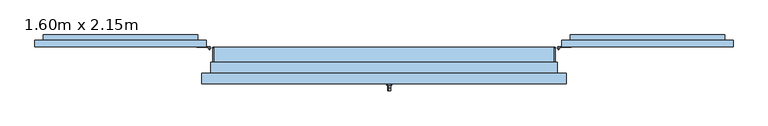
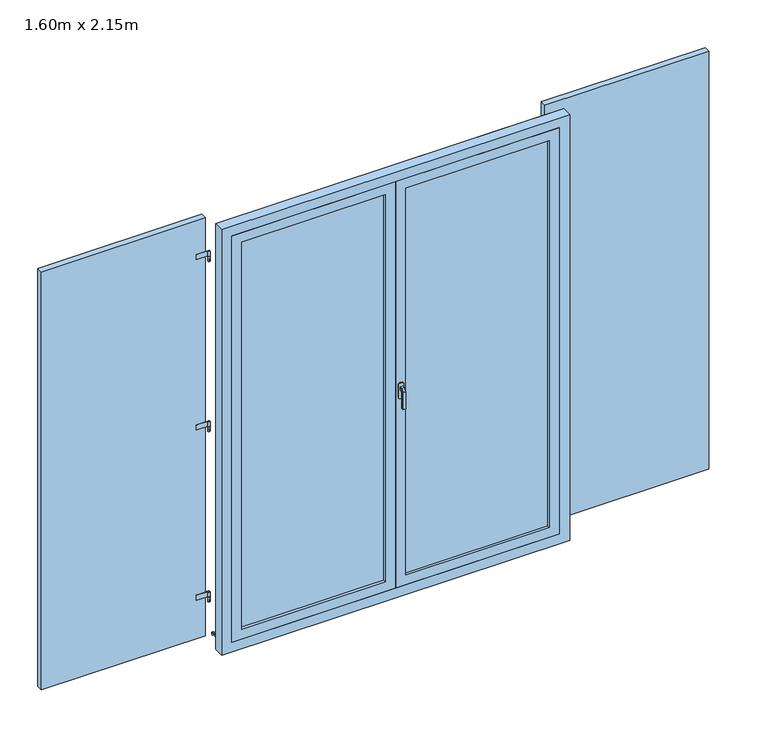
"""IFC4 building model written with IfcOpenShell, lengths in millimetres: window geometry, PF 2 Vantaux droits - Volets et petits bois : 1.60m x 2.15m."""

from ifc_helpers import new_model, si_unit, point, frame, frame_2d, origin, place, context, project, spatial, polyline, circle_curve, trimmed, segment, composite_curve, outline, extrude, faceted_brep, source, transform, mapped, element, save
from ifc_brep_helpers import plane_surface, cylinder_surface, advanced_brep


def window_1_60m_x_2_15m_e7e592b5(model_context):
    return source(origin(), model_context, "Body", "SolidModel", [
        extrude(outline(polyline([(-1630.0, 93.0), (-1630.0, 123.0), (-830.0, 123.0), (-830.0, 93.0), (-1630.0, 93.0)])), frame((0.0, 0.0, 25.0), z_axis=(0.0, 0.0, 1.0), x_axis=(1.0, 0.0, 0.0)), (0.0, 0.0, 1.0), 2160.0),
        advanced_brep(
        [(-810.0, 88.0, 225.0), (-820.0, 88.0, 225.0), (-810.0, 88.0, 200.0), (-820.0, 88.0, 200.0), (-817.0, 83.4174243, 205.0), (-817.0, 83.4174243, 215.0), (-813.0, 83.4174243, 215.0), (-813.0, 83.4174243, 205.0), (-813.0, 80.0, 215.0), (-817.0, 80.0, 215.0), (-817.0, 80.0, 205.0), (-813.0, 80.0, 205.0)],
        [
            (0, 1, circle_curve(frame((-815.0, 88.0, 225.0), z_axis=(0.0, 0.0, 1.0), x_axis=(-1.0, 0.0, 0.0)), 5.0)),
            (1, 0, circle_curve(frame((-815.0, 88.0, 225.0), z_axis=(0.0, 0.0, 1.0), x_axis=(-1.0, 0.0, 0.0)), 5.0)),
            (2, 3, circle_curve(frame((-815.0, 88.0, 200.0), z_axis=(0.0, 0.0, -1.0), x_axis=(-1.0, 0.0, 0.0)), 5.0)),
            (3, 2, circle_curve(frame((-815.0, 88.0, 200.0), z_axis=(0.0, 0.0, -1.0), x_axis=(-1.0, 0.0, 0.0)), 5.0)),
            (1, 3),
            (2, 0),
            (4, 5),
            (5, 6, circle_curve(frame((-815.0, 88.0, 215.0), z_axis=(0.0, 0.0, 1.0), x_axis=(-1.0, 0.0, 0.0)), 5.0)),
            (6, 7),
            (7, 4, circle_curve(frame((-815.0, 88.0, 205.0), z_axis=(0.0, 0.0, -1.0), x_axis=(-1.0, 0.0, 0.0)), 5.0)),
            (8, 6),
            (5, 9),
            (9, 8),
            (10, 4),
            (7, 11),
            (11, 10),
            (10, 9),
            (8, 11),
        ],
        [
            plane_surface(frame((-820.0, 88.0, 225.0), z_axis=(0.0, 0.0, 1.0), x_axis=(0.0, 1.0, 0.0))),
            plane_surface(frame((-820.0, 88.0, 200.0), z_axis=(0.0, 0.0, -1.0), x_axis=(0.0, -1.0, 0.0))),
            cylinder_surface(frame((-815.0, 88.0, 200.0), z_axis=(0.0, 0.0, 1.0), x_axis=(-1.0, 0.0, 0.0)), 5.0),
            plane_surface(frame((-817.0, 80.0, 215.0), z_axis=(0.0, 0.0, 1.0), x_axis=(0.0, 1.0, 0.0))),
            plane_surface(frame((-817.0, 80.0, 205.0), z_axis=(0.0, 0.0, -1.0), x_axis=(0.0, -1.0, 0.0))),
            plane_surface(frame((-817.0, 80.0, 215.0), z_axis=(-1.0, 0.0, 0.0), x_axis=(0.0, 0.0, -1.0))),
            plane_surface(frame((-813.0, 85.0, 215.0), z_axis=(1.0, 0.0, 0.0), x_axis=(0.0, 0.0, -1.0))),
            plane_surface(frame((-813.0, 80.0, 215.0), z_axis=(0.0, -1.0, 0.0), x_axis=(0.0, 0.0, -1.0))),
        ],
        [
            (0, [[1, 2]]),
            (1, [[3, 4]]),
            (2, [[5, -3, 6, -2], [7, 8, 9, 10]]),
            (2, [[-6, -4, -5, -1]]),
            (3, [[11, -8, 12, 13]]),
            (4, [[14, -10, 15, 16]]),
            (5, [[-12, -7, -14, 17]]),
            (6, [[-15, -9, -11, 18]]),
            (7, [[-17, -16, -18, -13]]),
        ],
    ),
        extrude(outline(composite_curve([segment(trimmed(circle_curve(frame_2d((-815.0, 88.0)), 5.0), [point((-815.0, 93.0))], [point((-820.0, 88.0))], False, "CARTESIAN"), True, "CONTINUOUS"), segment(polyline([(-820.0, 88.0), (-817.5, 88.0)]), True, "CONTINUOUS"), segment(trimmed(circle_curve(frame_2d((-815.0, 88.0)), 2.5), [point((-817.5, 88.0))], [point((-815.0, 90.5))], True, "CARTESIAN"), True, "CONTINUOUS"), segment(polyline([(-815.0, 90.5), (-874.3092325, 90.5), (-874.3092325, 93.0), (-815.0, 93.0)]), True, "CONTINUOUS")], self_intersect=False)), frame((0.0, 0.0, 225.0), z_axis=(0.0, 0.0, 1.0), x_axis=(1.0, 0.0, 0.0)), (0.0, 0.0, 1.0), 25.0),
        extrude(outline(composite_curve([segment(trimmed(circle_curve(frame_2d((-815.0, 88.0)), 2.5), [point((-812.5, 88.0))], [point((-817.5, 88.0))], False, "CARTESIAN"), True, "CONTINUOUS"), segment(trimmed(circle_curve(frame_2d((-815.0, 88.0)), 2.5), [point((-817.5, 88.0))], [point((-812.5, 88.0))], False, "CARTESIAN"), True, "CONTINUOUS")], self_intersect=False)), frame((0.0, 0.0, 225.0), z_axis=(0.0, 0.0, 1.0), x_axis=(1.0, 0.0, 0.0)), (0.0, 0.0, 1.0), 25.0),
        advanced_brep(
        [(-810.0, 88.0, 1985.0), (-820.0, 88.0, 1985.0), (-810.0, 88.0, 1960.0), (-820.0, 88.0, 1960.0), (-813.0, 83.4174243, 1975.0), (-813.0, 83.4174243, 1965.0), (-817.0, 83.4174243, 1965.0), (-817.0, 83.4174243, 1975.0), (-813.0, 80.0, 1975.0), (-817.0, 80.0, 1975.0), (-813.0, 80.0, 1965.0), (-817.0, 80.0, 1965.0)],
        [
            (0, 1, circle_curve(frame((-815.0, 88.0, 1985.0), z_axis=(0.0, 0.0, 1.0), x_axis=(-1.0, 0.0, 0.0)), 5.0)),
            (1, 0, circle_curve(frame((-815.0, 88.0, 1985.0), z_axis=(0.0, 0.0, 1.0), x_axis=(-1.0, 0.0, 0.0)), 5.0)),
            (2, 3, circle_curve(frame((-815.0, 88.0, 1960.0), z_axis=(0.0, 0.0, -1.0), x_axis=(-1.0, 0.0, 0.0)), 5.0)),
            (3, 2, circle_curve(frame((-815.0, 88.0, 1960.0), z_axis=(0.0, 0.0, -1.0), x_axis=(-1.0, 0.0, 0.0)), 5.0)),
            (1, 3),
            (2, 0),
            (4, 5),
            (5, 6, circle_curve(frame((-815.0, 88.0, 1965.0), z_axis=(0.0, 0.0, -1.0), x_axis=(-1.0, 0.0, 0.0)), 5.0)),
            (6, 7),
            (7, 4, circle_curve(frame((-815.0, 88.0, 1975.0), z_axis=(0.0, 0.0, 1.0), x_axis=(-1.0, 0.0, 0.0)), 5.0)),
            (8, 4),
            (7, 9),
            (9, 8),
            (10, 11),
            (11, 6),
            (5, 10),
            (9, 11),
            (10, 8),
        ],
        [
            plane_surface(frame((-820.0, 88.0, 1985.0), z_axis=(0.0, 0.0, 1.0), x_axis=(0.0, 1.0, 0.0))),
            plane_surface(frame((-820.0, 88.0, 1960.0), z_axis=(0.0, 0.0, -1.0), x_axis=(0.0, -1.0, 0.0))),
            cylinder_surface(frame((-815.0, 88.0, 1960.0), z_axis=(0.0, 0.0, 1.0), x_axis=(-1.0, 0.0, 0.0)), 5.0),
            plane_surface(frame((-813.0, 80.0, 1975.0), z_axis=(0.0, 0.0, 1.0), x_axis=(-1.0, 0.0, 0.0))),
            plane_surface(frame((-813.0, 80.0, 1965.0), z_axis=(0.0, 0.0, -1.0), x_axis=(1.0, 0.0, 0.0))),
            plane_surface(frame((-813.0, 80.0, 1975.0), z_axis=(0.0, -1.0, 0.0), x_axis=(0.0, 0.0, -1.0))),
            plane_surface(frame((-817.0, 80.0, 1975.0), z_axis=(-1.0, 0.0, 0.0), x_axis=(0.0, 0.0, -1.0))),
            plane_surface(frame((-813.0, 83.4174243, 1975.0), z_axis=(1.0, 0.0, 0.0), x_axis=(0.0, 0.0, -1.0))),
        ],
        [
            (0, [[1, 2]]),
            (1, [[3, 4]]),
            (2, [[5, -3, 6, -2], [7, 8, 9, 10]]),
            (2, [[-6, -4, -5, -1]]),
            (3, [[11, -10, 12, 13]]),
            (4, [[14, 15, -8, 16]]),
            (5, [[17, -14, 18, -13]]),
            (6, [[-9, -15, -17, -12]]),
            (7, [[-18, -16, -7, -11]]),
        ],
    ),
        extrude(outline(polyline([(-813.0, 80.0), (-817.0, 80.0), (-817.0, 83.4174243), (-813.0, 83.4174243), (-813.0, 80.0)])), frame((0.0, 0.0, 1085.0), z_axis=(0.0, 0.0, 1.0), x_axis=(1.0, 0.0, 0.0)), (0.0, 0.0, 1.0), 10.0),
        extrude(outline(composite_curve([segment(trimmed(circle_curve(frame_2d((-815.0, 88.0)), 5.0), [point((-815.0, 93.0))], [point((-820.0, 88.0))], False, "CARTESIAN"), True, "CONTINUOUS"), segment(polyline([(-820.0, 88.0), (-817.5, 88.0)]), True, "CONTINUOUS"), segment(trimmed(circle_curve(frame_2d((-815.0, 88.0)), 2.5), [point((-817.5, 88.0))], [point((-812.5, 88.0))], True, "CARTESIAN"), True, "CONTINUOUS"), segment(trimmed(circle_curve(frame_2d((-815.0, 88.0)), 2.5), [point((-812.5, 88.0))], [point((-815.0, 90.5))], True, "CARTESIAN"), True, "CONTINUOUS"), segment(polyline([(-815.0, 90.5), (-874.3092325, 90.5), (-874.3092325, 93.0), (-815.0, 93.0)]), True, "CONTINUOUS")], self_intersect=False)), frame((0.0, 0.0, 1105.0), z_axis=(0.0, 0.0, 1.0), x_axis=(1.0, 0.0, 0.0)), (0.0, 0.0, 1.0), 25.0),
        extrude(outline(composite_curve([segment(trimmed(circle_curve(frame_2d((-815.0, 88.0)), 2.5), [point((-812.5, 88.0))], [point((-817.5, 88.0))], False, "CARTESIAN"), True, "CONTINUOUS"), segment(trimmed(circle_curve(frame_2d((-815.0, 88.0)), 2.5), [point((-817.5, 88.0))], [point((-812.5, 88.0))], False, "CARTESIAN"), True, "CONTINUOUS")], self_intersect=False)), frame((0.0, 0.0, 1105.0), z_axis=(0.0, 0.0, 1.0), x_axis=(1.0, 0.0, 0.0)), (0.0, 0.0, 1.0), 25.0),
        extrude(outline(composite_curve([segment(trimmed(circle_curve(frame_2d((-815.0, 88.0)), 5.0), [point((-810.0, 88.0))], [point((-820.0, 88.0))], False, "CARTESIAN"), True, "CONTINUOUS"), segment(trimmed(circle_curve(frame_2d((-815.0, 88.0)), 5.0), [point((-820.0, 88.0))], [point((-810.0, 88.0))], False, "CARTESIAN"), True, "CONTINUOUS")], self_intersect=False)), frame((0.0, 0.0, 1080.0), z_axis=(0.0, 0.0, 1.0), x_axis=(1.0, 0.0, 0.0)), (0.0, 0.0, 1.0), 25.0),
        extrude(outline(composite_curve([segment(trimmed(circle_curve(frame_2d((-815.0, 88.0)), 5.0), [point((-815.0, 93.0))], [point((-820.0, 88.0))], False, "CARTESIAN"), True, "CONTINUOUS"), segment(polyline([(-820.0, 88.0), (-817.5, 88.0)]), True, "CONTINUOUS"), segment(trimmed(circle_curve(frame_2d((-815.0, 88.0)), 2.5), [point((-817.5, 88.0))], [point((-815.0, 90.5))], True, "CARTESIAN"), True, "CONTINUOUS"), segment(polyline([(-815.0, 90.5), (-874.3092325, 90.5), (-874.3092325, 93.0), (-815.0, 93.0)]), True, "CONTINUOUS")], self_intersect=False)), frame((0.0, 0.0, 1985.0), z_axis=(0.0, 0.0, 1.0), x_axis=(1.0, 0.0, 0.0)), (0.0, 0.0, 1.0), 25.0),
        extrude(outline(composite_curve([segment(trimmed(circle_curve(frame_2d((-815.0, 88.0)), 2.5), [point((-812.5, 88.0))], [point((-817.5, 88.0))], False, "CARTESIAN"), True, "CONTINUOUS"), segment(trimmed(circle_curve(frame_2d((-815.0, 88.0)), 2.5), [point((-817.5, 88.0))], [point((-812.5, 88.0))], False, "CARTESIAN"), True, "CONTINUOUS")], self_intersect=False)), frame((0.0, 0.0, 1985.0), z_axis=(0.0, 0.0, 1.0), x_axis=(1.0, 0.0, 0.0)), (0.0, 0.0, 1.0), 25.0),
        extrude(outline(polyline([(1945.0, -1488.8573102), (1945.0, -1590.0), (1145.0, -971.1426898), (1145.0, -870.0), (1945.0, -1488.8573102)])), frame((0.0, 123.0, 0.0), z_axis=(0.0, 1.0, 0.0), x_axis=(0.0, 0.0, 1.0)), (0.0, 0.0, 1.0), 25.0),
        extrude(outline(polyline([(265.0, -971.143415), (265.0, -870.0007252), (1065.0, -1488.8580354), (1065.0, -1590.0007252), (265.0, -971.143415)])), frame((0.0, 123.0, 0.0), z_axis=(0.0, 1.0, 0.0), x_axis=(0.0, 0.0, 1.0)), (0.0, 0.0, 1.0), 25.0),
        extrude(outline(polyline([(-870.0, 148.0), (-870.0, 123.0), (-1590.0, 123.0), (-1590.0, 148.0), (-870.0, 148.0)])), frame((0.0, 0.0, 1945.0), z_axis=(0.0, 0.0, 1.0), x_axis=(1.0, 0.0, 0.0)), (0.0, 0.0, 1.0), 80.0),
        extrude(outline(polyline([(-870.0, 148.0), (-870.0, 123.0), (-1590.0, 123.0), (-1590.0, 148.0), (-870.0, 148.0)])), frame((0.0, 0.0, 185.0), z_axis=(0.0, 0.0, 1.0), x_axis=(1.0, 0.0, 0.0)), (0.0, 0.0, 1.0), 80.0),
        extrude(outline(polyline([(-870.0, 148.0), (-870.0, 123.0), (-1590.0, 123.0), (-1590.0, 148.0), (-870.0, 148.0)])), frame((0.0, 0.0, 1065.0), z_axis=(0.0, 0.0, 1.0), x_axis=(1.0, 0.0, 0.0)), (0.0, 0.0, 1.0), 80.0),
        extrude(outline(polyline([(1630.0, 93.0), (830.0, 93.0), (830.0, 123.0), (1630.0, 123.0), (1630.0, 93.0)])), frame((0.0, 0.0, 25.0), z_axis=(0.0, 0.0, 1.0), x_axis=(1.0, 0.0, 0.0)), (0.0, 0.0, 1.0), 2160.0),
        advanced_brep(
        [(810.0, 88.0, 225.0), (820.0, 88.0, 225.0), (810.0, 88.0, 200.0), (820.0, 88.0, 200.0), (817.0, 83.4174243, 205.0), (813.0, 83.4174243, 205.0), (813.0, 83.4174243, 215.0), (817.0, 83.4174243, 215.0), (813.0, 80.0, 215.0), (817.0, 80.0, 215.0), (817.0, 80.0, 205.0), (813.0, 80.0, 205.0)],
        [
            (0, 1, circle_curve(frame((815.0, 88.0, 225.0), z_axis=(0.0, 0.0, 1.0), x_axis=(1.0, 0.0, 0.0)), 5.0)),
            (1, 0, circle_curve(frame((815.0, 88.0, 225.0), z_axis=(0.0, 0.0, 1.0), x_axis=(1.0, 0.0, 0.0)), 5.0)),
            (2, 3, circle_curve(frame((815.0, 88.0, 200.0), z_axis=(0.0, 0.0, -1.0), x_axis=(1.0, 0.0, 0.0)), 5.0)),
            (3, 2, circle_curve(frame((815.0, 88.0, 200.0), z_axis=(0.0, 0.0, -1.0), x_axis=(1.0, 0.0, 0.0)), 5.0)),
            (0, 2),
            (3, 1),
            (4, 5, circle_curve(frame((815.0, 88.0, 205.0), z_axis=(0.0, 0.0, -1.0), x_axis=(1.0, 0.0, 0.0)), 5.0)),
            (5, 6),
            (6, 7, circle_curve(frame((815.0, 88.0, 215.0), z_axis=(0.0, 0.0, 1.0), x_axis=(1.0, 0.0, 0.0)), 5.0)),
            (7, 4),
            (8, 9),
            (9, 7),
            (6, 8),
            (10, 11),
            (11, 5),
            (4, 10),
            (9, 10),
            (11, 8),
        ],
        [
            plane_surface(frame((820.0, 88.0, 225.0), z_axis=(0.0, 0.0, 1.0), x_axis=(0.0, 1.0, 0.0))),
            plane_surface(frame((820.0, 88.0, 200.0), z_axis=(0.0, 0.0, -1.0), x_axis=(0.0, -1.0, 0.0))),
            cylinder_surface(frame((815.0, 88.0, 200.0), z_axis=(0.0, 0.0, 1.0), x_axis=(1.0, 0.0, 0.0)), 5.0),
            plane_surface(frame((817.0, 80.0, 215.0), z_axis=(0.0, 0.0, 1.0), x_axis=(0.0, 1.0, 0.0))),
            plane_surface(frame((817.0, 80.0, 205.0), z_axis=(0.0, 0.0, -1.0), x_axis=(0.0, -1.0, 0.0))),
            plane_surface(frame((817.0, 80.0, 215.0), z_axis=(1.0, 0.0, 0.0), x_axis=(0.0, 0.0, -1.0))),
            plane_surface(frame((813.0, 85.0, 215.0), z_axis=(-1.0, 0.0, 0.0), x_axis=(0.0, 0.0, -1.0))),
            plane_surface(frame((813.0, 80.0, 215.0), z_axis=(0.0, -1.0, 0.0), x_axis=(0.0, 0.0, -1.0))),
        ],
        [
            (0, [[1, 2]]),
            (1, [[3, 4]]),
            (2, [[-1, 5, -4, 6], [7, 8, 9, 10]]),
            (2, [[-2, -6, -3, -5]]),
            (3, [[11, 12, -9, 13]]),
            (4, [[14, 15, -7, 16]]),
            (5, [[17, -16, -10, -12]]),
            (6, [[18, -13, -8, -15]]),
            (7, [[-11, -18, -14, -17]]),
        ],
    ),
        extrude(outline(composite_curve([segment(polyline([(815.0, 93.0), (874.3092325, 93.0), (874.3092325, 90.5), (815.0, 90.5)]), True, "CONTINUOUS"), segment(trimmed(circle_curve(frame_2d((815.0, 88.0)), 2.5), [point((815.0, 90.5))], [point((817.5, 88.0))], True, "CARTESIAN"), True, "CONTINUOUS"), segment(polyline([(817.5, 88.0), (820.0, 88.0)]), True, "CONTINUOUS"), segment(trimmed(circle_curve(frame_2d((815.0, 88.0)), 5.0), [point((820.0, 88.0))], [point((815.0, 93.0))], False, "CARTESIAN"), True, "CONTINUOUS")], self_intersect=False)), frame((0.0, 0.0, 225.0), z_axis=(0.0, 0.0, 1.0), x_axis=(1.0, 0.0, 0.0)), (0.0, 0.0, 1.0), 25.0),
        extrude(outline(composite_curve([segment(trimmed(circle_curve(frame_2d((815.0, 88.0)), 2.5), [point((812.5, 88.0))], [point((817.5, 88.0))], False, "CARTESIAN"), True, "CONTINUOUS"), segment(trimmed(circle_curve(frame_2d((815.0, 88.0)), 2.5), [point((817.5, 88.0))], [point((812.5, 88.0))], False, "CARTESIAN"), True, "CONTINUOUS")], self_intersect=False)), frame((0.0, 0.0, 225.0), z_axis=(0.0, 0.0, 1.0), x_axis=(1.0, 0.0, 0.0)), (0.0, 0.0, 1.0), 25.0),
        advanced_brep(
        [(810.0, 88.0, 1985.0), (820.0, 88.0, 1985.0), (810.0, 88.0, 1960.0), (820.0, 88.0, 1960.0), (813.0, 83.4174243, 1975.0), (817.0, 83.4174243, 1975.0), (817.0, 83.4174243, 1965.0), (813.0, 83.4174243, 1965.0), (813.0, 80.0, 1975.0), (817.0, 80.0, 1975.0), (813.0, 80.0, 1965.0), (817.0, 80.0, 1965.0)],
        [
            (0, 1, circle_curve(frame((815.0, 88.0, 1985.0), z_axis=(0.0, 0.0, 1.0), x_axis=(1.0, 0.0, 0.0)), 5.0)),
            (1, 0, circle_curve(frame((815.0, 88.0, 1985.0), z_axis=(0.0, 0.0, 1.0), x_axis=(1.0, 0.0, 0.0)), 5.0)),
            (2, 3, circle_curve(frame((815.0, 88.0, 1960.0), z_axis=(0.0, 0.0, -1.0), x_axis=(1.0, 0.0, 0.0)), 5.0)),
            (3, 2, circle_curve(frame((815.0, 88.0, 1960.0), z_axis=(0.0, 0.0, -1.0), x_axis=(1.0, 0.0, 0.0)), 5.0)),
            (0, 2),
            (3, 1),
            (4, 5, circle_curve(frame((815.0, 88.0, 1975.0), z_axis=(0.0, 0.0, 1.0), x_axis=(1.0, 0.0, 0.0)), 5.0)),
            (5, 6),
            (6, 7, circle_curve(frame((815.0, 88.0, 1965.0), z_axis=(0.0, 0.0, -1.0), x_axis=(1.0, 0.0, 0.0)), 5.0)),
            (7, 4),
            (8, 9),
            (9, 5),
            (4, 8),
            (10, 7),
            (6, 11),
            (11, 10),
            (8, 10),
            (11, 9),
        ],
        [
            plane_surface(frame((820.0, 88.0, 1985.0), z_axis=(0.0, 0.0, 1.0), x_axis=(0.0, 1.0, 0.0))),
            plane_surface(frame((820.0, 88.0, 1960.0), z_axis=(0.0, 0.0, -1.0), x_axis=(0.0, -1.0, 0.0))),
            cylinder_surface(frame((815.0, 88.0, 1960.0), z_axis=(0.0, 0.0, 1.0), x_axis=(1.0, 0.0, 0.0)), 5.0),
            plane_surface(frame((813.0, 80.0, 1975.0), z_axis=(0.0, 0.0, 1.0), x_axis=(1.0, 0.0, 0.0))),
            plane_surface(frame((813.0, 80.0, 1965.0), z_axis=(0.0, 0.0, -1.0), x_axis=(-1.0, 0.0, 0.0))),
            plane_surface(frame((813.0, 80.0, 1975.0), z_axis=(0.0, -1.0, 0.0), x_axis=(0.0, 0.0, -1.0))),
            plane_surface(frame((817.0, 80.0, 1975.0), z_axis=(1.0, 0.0, 0.0), x_axis=(0.0, 0.0, -1.0))),
            plane_surface(frame((813.0, 83.4174243, 1975.0), z_axis=(-1.0, 0.0, 0.0), x_axis=(0.0, 0.0, -1.0))),
        ],
        [
            (0, [[1, 2]]),
            (1, [[3, 4]]),
            (2, [[-1, 5, -4, 6], [7, 8, 9, 10]]),
            (2, [[-2, -6, -3, -5]]),
            (3, [[11, 12, -7, 13]]),
            (4, [[14, -9, 15, 16]]),
            (5, [[-11, 17, -16, 18]]),
            (6, [[-12, -18, -15, -8]]),
            (7, [[-13, -10, -14, -17]]),
        ],
    ),
        extrude(outline(polyline([(813.0, 80.0), (813.0, 83.4174243), (817.0, 83.4174243), (817.0, 80.0), (813.0, 80.0)])), frame((0.0, 0.0, 1085.0), z_axis=(0.0, 0.0, 1.0), x_axis=(1.0, 0.0, 0.0)), (0.0, 0.0, 1.0), 10.0),
        extrude(outline(composite_curve([segment(polyline([(815.0, 93.0), (874.3092325, 93.0), (874.3092325, 90.5), (815.0, 90.5)]), True, "CONTINUOUS"), segment(trimmed(circle_curve(frame_2d((815.0, 88.0)), 2.5), [point((815.0, 90.5))], [point((812.5, 88.0))], True, "CARTESIAN"), True, "CONTINUOUS"), segment(trimmed(circle_curve(frame_2d((815.0, 88.0)), 2.5), [point((812.5, 88.0))], [point((817.5, 88.0))], True, "CARTESIAN"), True, "CONTINUOUS"), segment(polyline([(817.5, 88.0), (820.0, 88.0)]), True, "CONTINUOUS"), segment(trimmed(circle_curve(frame_2d((815.0, 88.0)), 5.0), [point((820.0, 88.0))], [point((815.0, 93.0))], False, "CARTESIAN"), True, "CONTINUOUS")], self_intersect=False)), frame((0.0, 0.0, 1105.0), z_axis=(0.0, 0.0, 1.0), x_axis=(1.0, 0.0, 0.0)), (0.0, 0.0, 1.0), 25.0),
        extrude(outline(composite_curve([segment(trimmed(circle_curve(frame_2d((815.0, 88.0)), 2.5), [point((812.5, 88.0))], [point((817.5, 88.0))], False, "CARTESIAN"), True, "CONTINUOUS"), segment(trimmed(circle_curve(frame_2d((815.0, 88.0)), 2.5), [point((817.5, 88.0))], [point((812.5, 88.0))], False, "CARTESIAN"), True, "CONTINUOUS")], self_intersect=False)), frame((0.0, 0.0, 1105.0), z_axis=(0.0, 0.0, 1.0), x_axis=(1.0, 0.0, 0.0)), (0.0, 0.0, 1.0), 25.0),
        extrude(outline(composite_curve([segment(trimmed(circle_curve(frame_2d((815.0, 88.0)), 5.0), [point((810.0, 88.0))], [point((820.0, 88.0))], False, "CARTESIAN"), True, "CONTINUOUS"), segment(trimmed(circle_curve(frame_2d((815.0, 88.0)), 5.0), [point((820.0, 88.0))], [point((810.0, 88.0))], False, "CARTESIAN"), True, "CONTINUOUS")], self_intersect=False)), frame((0.0, 0.0, 1080.0), z_axis=(0.0, 0.0, 1.0), x_axis=(1.0, 0.0, 0.0)), (0.0, 0.0, 1.0), 25.0),
        extrude(outline(composite_curve([segment(polyline([(815.0, 93.0), (874.3092325, 93.0), (874.3092325, 90.5), (815.0, 90.5)]), True, "CONTINUOUS"), segment(trimmed(circle_curve(frame_2d((815.0, 88.0)), 2.5), [point((815.0, 90.5))], [point((817.5, 88.0))], True, "CARTESIAN"), True, "CONTINUOUS"), segment(polyline([(817.5, 88.0), (820.0, 88.0)]), True, "CONTINUOUS"), segment(trimmed(circle_curve(frame_2d((815.0, 88.0)), 5.0), [point((820.0, 88.0))], [point((815.0, 93.0))], False, "CARTESIAN"), True, "CONTINUOUS")], self_intersect=False)), frame((0.0, 0.0, 1985.0), z_axis=(0.0, 0.0, 1.0), x_axis=(1.0, 0.0, 0.0)), (0.0, 0.0, 1.0), 25.0),
        extrude(outline(composite_curve([segment(trimmed(circle_curve(frame_2d((815.0, 88.0)), 2.5), [point((812.5, 88.0))], [point((817.5, 88.0))], False, "CARTESIAN"), True, "CONTINUOUS"), segment(trimmed(circle_curve(frame_2d((815.0, 88.0)), 2.5), [point((817.5, 88.0))], [point((812.5, 88.0))], False, "CARTESIAN"), True, "CONTINUOUS")], self_intersect=False)), frame((0.0, 0.0, 1985.0), z_axis=(0.0, 0.0, 1.0), x_axis=(1.0, 0.0, 0.0)), (0.0, 0.0, 1.0), 25.0),
        extrude(outline(polyline([(1945.0, 1488.8573102), (1145.0, 870.0), (1145.0, 971.1426898), (1945.0, 1590.0), (1945.0, 1488.8573102)])), frame((0.0, 123.0, 0.0), z_axis=(0.0, 1.0, 0.0), x_axis=(0.0, 0.0, 1.0)), (0.0, 0.0, 1.0), 25.0),
        extrude(outline(polyline([(265.0, 971.143415), (1065.0, 1590.0007252), (1065.0, 1488.8580354), (265.0, 870.0007252), (265.0, 971.143415)])), frame((0.0, 123.0, 0.0), z_axis=(0.0, 1.0, 0.0), x_axis=(0.0, 0.0, 1.0)), (0.0, 0.0, 1.0), 25.0),
        extrude(outline(polyline([(870.0, 148.0), (1590.0, 148.0), (1590.0, 123.0), (870.0, 123.0), (870.0, 148.0)])), frame((0.0, 0.0, 1945.0), z_axis=(0.0, 0.0, 1.0), x_axis=(1.0, 0.0, 0.0)), (0.0, 0.0, 1.0), 80.0),
        extrude(outline(polyline([(870.0, 148.0), (1590.0, 148.0), (1590.0, 123.0), (870.0, 123.0), (870.0, 148.0)])), frame((0.0, 0.0, 185.0), z_axis=(0.0, 0.0, 1.0), x_axis=(1.0, 0.0, 0.0)), (0.0, 0.0, 1.0), 80.0),
        extrude(outline(polyline([(870.0, 148.0), (1590.0, 148.0), (1590.0, 123.0), (870.0, 123.0), (870.0, 148.0)])), frame((0.0, 0.0, 1065.0), z_axis=(0.0, 0.0, 1.0), x_axis=(1.0, 0.0, 0.0)), (0.0, 0.0, 1.0), 80.0),
        faceted_brep([(30.6460097, -86.0, 1122.0339292), (32.0339292, -86.0, 1120.6460097), (32.0339292, -86.0, 1109.3323012), (30.6676988, -86.0, 1107.9660708), (19.3323012, -86.0, 1107.9660708), (17.9660708, -86.0, 1109.3323012), (17.9660708, -86.0, 1120.6460097), (19.3539903, -86.0, 1122.0339292), (30.6460097, -98.9135489, 1122.0339292), (32.0339292, -98.3386538, 1120.6460097), (32.0339292, -111.6460097, 1107.3386538), (32.0339292, -111.6460097, 1020.0), (32.0339292, -100.3323012, 1020.0), (32.0339292, -100.3323012, 1102.6523623), (32.0339292, -93.6523623, 1109.3323012), (30.6676988, -93.0864511, 1107.9660708), (19.3323012, -93.0864511, 1107.9660708), (17.9660708, -93.6523623, 1109.3323012), (17.9660708, -100.3323012, 1102.6523623), (17.9660708, -100.3323012, 1020.0), (17.9660708, -111.6460097, 1020.0), (17.9660708, -111.6460097, 1107.3386538), (17.9660708, -98.3386538, 1120.6460097), (19.3539903, -98.9135489, 1122.0339292), (30.6460097, -113.0339292, 1107.9135489), (30.6676988, -98.9660708, 1102.0864511), (19.3323012, -98.9660708, 1102.0864511), (19.3539903, -113.0339292, 1107.9135489), (30.6460097, -113.0339292, 1020.0), (19.3539903, -113.0339292, 1020.0), (19.3323012, -98.9660708, 1020.0), (30.6676988, -98.9660708, 1020.0)], [[[0, 1, 2, 3, 4, 5, 6, 7]], [[1, 0, 8, 9]], [[2, 1, 9, 10, 11, 12, 13, 14]], [[3, 2, 14, 15]], [[4, 3, 15, 16]], [[5, 4, 16, 17]], [[6, 5, 17, 18, 19, 20, 21, 22]], [[7, 6, 22, 23]], [[0, 7, 23, 8]], [[9, 8, 24, 10]], [[15, 14, 13, 25]], [[16, 15, 25, 26]], [[17, 16, 26, 18]], [[23, 22, 21, 27]], [[8, 23, 27, 24]], [[28, 29, 20, 19, 30, 31, 12, 11]], [[10, 24, 28, 11]], [[25, 13, 12, 31]], [[26, 25, 31, 30]], [[18, 26, 30, 19]], [[27, 21, 20, 29]], [[24, 27, 29, 28]]]),
        extrude(outline(polyline([(1140.0, 32.0), (1140.0, 18.0), (1135.0, 13.0), (1065.0, 13.0), (1060.0, 18.0), (1060.0, 32.0), (1065.0, 37.0), (1135.0, 37.0), (1140.0, 32.0)])), frame((0.0, -86.0, 0.0), z_axis=(0.0, 1.0, 0.0), x_axis=(0.0, 0.0, 1.0)), (0.0, 0.0, 1.0), 6.0),
        extrude(outline(polyline([(90.0288776, 30.7927954), (90.0288776, 19.7145929), (85.0288776, 20.2401141), (85.0288776, 26.0631048), (0.0, 35.0), (0.0, 50.0), (5.0, 50.0), (5.0, 39.7296906), (90.0288776, 30.7927954)])), frame((-800.0, 0.0, 0.0), z_axis=(1.0, 0.0, 0.0), x_axis=(0.0, 1.0, 0.0)), (0.0, 0.0, 1.0), 1600.0),
        extrude(outline(composite_curve([segment(polyline([(90.0288776, 30.7927954), (5.0, 39.7296906), (5.0, 44.757232), (86.4469915, 36.1968082)]), True, "CONTINUOUS"), segment(trimmed(circle_curve(frame_2d((86.0288776, 32.2187207)), 4.0), [point((86.4469915, 36.1968082))], [point((90.0288776, 32.2187207))], False, "CARTESIAN"), True, "CONTINUOUS"), segment(polyline([(90.0288776, 32.2187207), (90.0288776, 30.7927954)]), True, "CONTINUOUS")], self_intersect=False)), frame((-800.0, 0.0, 0.0), z_axis=(1.0, 0.0, 0.0), x_axis=(0.0, 1.0, 0.0)), (0.0, 0.0, 1.0), 5.0),
        extrude(outline(composite_curve([segment(polyline([(90.0288776, 30.7927954), (5.0, 39.7296906), (5.0, 44.757232), (86.4469915, 36.1968082)]), True, "CONTINUOUS"), segment(trimmed(circle_curve(frame_2d((86.0288776, 32.2187207)), 4.0), [point((86.4469915, 36.1968082))], [point((90.0288776, 32.2187207))], False, "CARTESIAN"), True, "CONTINUOUS"), segment(polyline([(90.0288776, 32.2187207), (90.0288776, 30.7927954)]), True, "CONTINUOUS")], self_intersect=False)), frame((795.0, 0.0, 0.0), z_axis=(1.0, 0.0, 0.0), x_axis=(0.0, 1.0, 0.0)), (0.0, 0.0, 1.0), 5.0),
        extrude(outline(polyline([(85.0, 0.0), (2185.0, 0.0), (2185.0, -800.0), (85.0, -800.0), (85.0, 0.0)]), holes=[polyline([(135.0, -750.0), (2135.0, -750.0), (2135.0, -50.0), (135.0, -50.0), (135.0, -750.0)])]), frame((0.0, -80.0, 0.0), z_axis=(0.0, 1.0, 0.0), x_axis=(0.0, 0.0, 1.0)), (0.0, 0.0, 1.0), 40.0),
        extrude(outline(polyline([(50.0, -54.0), (750.0, -54.0), (750.0, -66.0), (50.0, -66.0), (50.0, -54.0)])), frame((0.0, 0.0, 135.0), z_axis=(0.0, 0.0, 1.0), x_axis=(1.0, 0.0, 0.0)), (0.0, 0.0, 1.0), 2000.0),
        extrude(outline(polyline([(-750.0, -54.0), (-50.0, -54.0), (-50.0, -66.0), (-750.0, -66.0), (-750.0, -54.0)])), frame((0.0, 0.0, 135.0), z_axis=(0.0, 0.0, 1.0), x_axis=(1.0, 0.0, 0.0)), (0.0, 0.0, 1.0), 2000.0),
        extrude(outline(polyline([(85.0, 800.0), (2185.0, 800.0), (2185.0, 0.0), (85.0, 0.0), (85.0, 800.0)]), holes=[polyline([(135.0, 50.0), (2135.0, 50.0), (2135.0, 750.0), (135.0, 750.0), (135.0, 50.0)])]), frame((0.0, -80.0, 0.0), z_axis=(0.0, 1.0, 0.0), x_axis=(0.0, 0.0, 1.0)), (0.0, 0.0, 1.0), 40.0),
        faceted_brep([(-850.0, -80.0, 35.0), (-850.0, -30.0, 35.0), (-800.0, -30.0, 35.0), (-800.0, 0.0, 35.0), (800.0, 0.0, 35.0), (800.0, -30.0, 35.0), (850.0, -30.0, 35.0), (850.0, -80.0, 35.0), (-850.0, -80.0, 2235.0), (-850.0, -30.0, 2235.0), (850.0, -30.0, 2235.0), (800.0, -30.0, 74.3761425), (-800.0, -30.0, 74.3761425), (-785.0, -30.0, 2170.0), (-785.0, -30.0, 100.0), (785.0, -30.0, 100.0), (785.0, -30.0, 2170.0), (-800.0, 20.0, 60.9786829), (-800.0, 20.0, 45.0), (-800.0, 10.0, 45.0), (-800.0, 10.0, 50.0), (-800.0, 0.0, 50.0), (800.0, 0.0, 50.0), (800.0, 10.0, 50.0), (800.0, 10.0, 45.0), (800.0, 20.0, 45.0), (800.0, 20.0, 60.9786829), (850.0, -80.0, 2235.0), (800.0, -80.0, 2185.0), (800.0, -80.0, 85.0), (-800.0, -80.0, 85.0), (-800.0, -80.0, 2185.0), (-785.0, -40.0, 2170.0), (-785.0, -40.0, 100.0), (785.0, -40.0, 100.0), (785.0, -40.0, 2170.0), (800.0, -40.0, 2185.0), (-800.0, -40.0, 2185.0), (-800.0, -40.0, 85.0), (800.0, -40.0, 85.0)], [[[0, 1, 2, 3, 4, 5, 6, 7]], [[1, 0, 8, 9]], [[1, 9, 10, 6, 5, 11, 12, 2], [13, 14, 15, 16]], [[12, 17, 18, 19, 20, 21, 3, 2]], [[3, 21, 22, 4]], [[4, 22, 23, 24, 25, 26, 11, 5]], [[6, 10, 27, 7]], [[0, 7, 27, 8], [28, 29, 30, 31]], [[13, 32, 33, 14]], [[33, 34, 15, 14]], [[35, 16, 15, 34]], [[17, 12, 11, 26]], [[36, 37, 38, 39], [32, 35, 34, 33]], [[38, 37, 31, 30]], [[30, 29, 39, 38]], [[28, 36, 39, 29]], [[18, 17, 26, 25]], [[19, 18, 25, 24]], [[20, 19, 24, 23]], [[21, 20, 23, 22]], [[13, 16, 35, 32]], [[37, 36, 28, 31]], [[10, 9, 8, 27]]]),
        extrude(outline(polyline([(35.0, -810.0), (35.0, -800.0), (2185.0, -800.0), (2185.0, 800.0), (35.0, 800.0), (35.0, 810.0), (2195.0, 810.0), (2195.0, -810.0), (35.0, -810.0)])), frame((0.0, -30.0, 0.0), z_axis=(0.0, 1.0, 0.0), x_axis=(0.0, 0.0, 1.0)), (0.0, 0.0, 1.0), 50.0),
        extrude(outline(polyline([(20.0, -32.0), (20.0, -40.0), (-20.0, -40.0), (-20.0, -32.0), (20.0, -32.0)])), frame((0.0, 0.0, 100.0), z_axis=(0.0, 0.0, 1.0), x_axis=(1.0, 0.0, 0.0)), (0.0, 0.0, 1.0), 2070.0),
    ])


if __name__ == "__main__":
    model = new_model("IFC4")
    model_context = context("Model", 3, world=origin())
    ifc_project = project(units=[si_unit("LENGTHUNIT", "METRE", prefix="MILLI")], contexts=[model_context])
    site = spatial("IfcSite", under=ifc_project)
    building = spatial("IfcBuilding", under=site)
    placement = place(None, origin())
    window_1_60m_x_2_15m_shape = window_1_60m_x_2_15m_e7e592b5(model_context)
    element("IfcWindow", 1, ObjectType="PF 2 Vantaux droits - Volets et petits bois : 1.60m x 2.15m", at=placement, inside=building, context=model_context, shape_type="MappedRepresentation", body=[
        mapped(window_1_60m_x_2_15m_shape, transform((0.0, 0.0, 0.0), x_axis=(1.0, 0.0, 0.0), y_axis=(0.0, 1.0, 0.0), z_axis=(0.0, 0.0, 1.0))),
    ])
    save(model, "model.ifc")
